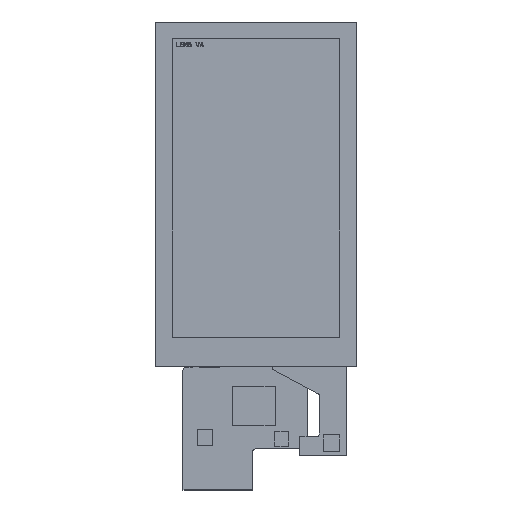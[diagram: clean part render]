
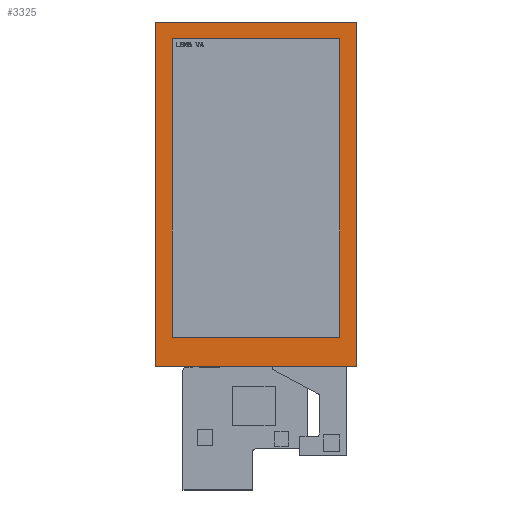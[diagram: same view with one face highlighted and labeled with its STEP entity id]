
A CAD part, top view. The second image highlights one B-rep face of the part: STEP entity #3325.
In plain terms, the highlighted planar face has unit normal (0, 0, 1).
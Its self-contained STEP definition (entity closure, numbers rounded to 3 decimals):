
#30=CARTESIAN_POINT('',(3.201,48.398,1.));
#31=DIRECTION('',(0.,0.,1.));
#32=DIRECTION('',(-1.,0.,0.));
#33=AXIS2_PLACEMENT_3D('',#30,#31,#32);
#35=DIRECTION('',(0.,-1.,0.));
#36=VECTOR('',#35,125.127);
#37=CARTESIAN_POINT('',(2.701,173.524,1.));
#38=LINE('',#37,#36);
#39=CARTESIAN_POINT('',(3.201,173.524,1.));
#40=DIRECTION('',(0.,0.,1.));
#41=DIRECTION('',(0.,1.,0.));
#42=AXIS2_PLACEMENT_3D('',#39,#40,#41);
#44=DIRECTION('',(-1.,0.,0.));
#45=VECTOR('',#44,72.332);
#46=CARTESIAN_POINT('',(75.533,174.024,1.));
#47=LINE('',#46,#45);
#48=CARTESIAN_POINT('',(75.533,173.524,1.));
#49=DIRECTION('',(0.,0.,1.));
#50=DIRECTION('',(1.,0.,0.));
#51=AXIS2_PLACEMENT_3D('',#48,#49,#50);
#53=DIRECTION('',(0.,1.,0.));
#54=VECTOR('',#53,125.127);
#55=CARTESIAN_POINT('',(76.033,48.398,1.));
#56=LINE('',#55,#54);
#57=CARTESIAN_POINT('',(75.533,48.398,1.));
#58=DIRECTION('',(0.,0.,1.));
#59=DIRECTION('',(0.,-1.,0.));
#60=AXIS2_PLACEMENT_3D('',#57,#58,#59);
#62=DIRECTION('',(1.,0.,0.));
#63=VECTOR('',#62,72.332);
#64=CARTESIAN_POINT('',(3.201,47.898,1.));
#65=LINE('',#64,#63);
#66=DIRECTION('',(1.,0.,0.));
#67=VECTOR('',#66,61.232);
#68=CARTESIAN_POINT('',(8.751,58.721,1.));
#69=LINE('',#68,#67);
#70=DIRECTION('',(0.,1.,0.));
#71=VECTOR('',#70,109.254);
#72=CARTESIAN_POINT('',(69.983,58.721,1.));
#73=LINE('',#72,#71);
#74=DIRECTION('',(-1.,0.,0.));
#75=VECTOR('',#74,61.232);
#76=CARTESIAN_POINT('',(69.983,167.974,1.));
#77=LINE('',#76,#75);
#78=DIRECTION('',(0.,-1.,0.));
#79=VECTOR('',#78,109.254);
#80=CARTESIAN_POINT('',(8.751,167.974,1.));
#81=LINE('',#80,#79);
#2672=CARTESIAN_POINT('',(2.701,48.398,1.));
#2673=CARTESIAN_POINT('',(3.201,47.898,1.));
#2674=VERTEX_POINT('',#2672);
#2675=VERTEX_POINT('',#2673);
#2676=CARTESIAN_POINT('',(75.533,47.898,1.));
#2677=VERTEX_POINT('',#2676);
#2678=CARTESIAN_POINT('',(76.033,48.398,1.));
#2679=VERTEX_POINT('',#2678);
#2680=CARTESIAN_POINT('',(76.033,173.524,1.));
#2681=VERTEX_POINT('',#2680);
#2682=CARTESIAN_POINT('',(75.533,174.024,1.));
#2683=VERTEX_POINT('',#2682);
#2684=CARTESIAN_POINT('',(3.201,174.024,1.));
#2685=VERTEX_POINT('',#2684);
#2686=CARTESIAN_POINT('',(2.701,173.524,1.));
#2687=VERTEX_POINT('',#2686);
#2904=CARTESIAN_POINT('',(8.751,58.721,1.));
#2905=CARTESIAN_POINT('',(69.983,58.721,1.));
#2906=VERTEX_POINT('',#2904);
#2907=VERTEX_POINT('',#2905);
#2908=CARTESIAN_POINT('',(69.983,167.974,1.));
#2909=VERTEX_POINT('',#2908);
#2910=CARTESIAN_POINT('',(8.751,167.974,1.));
#2911=VERTEX_POINT('',#2910);
#3292=CARTESIAN_POINT('',(0.,0.,1.));
#3293=DIRECTION('',(0.,0.,1.));
#3294=DIRECTION('',(1.,0.,0.));
#3295=AXIS2_PLACEMENT_3D('',#3292,#3293,#3294);
#3296=PLANE('',#3295);
#3298=ORIENTED_EDGE('',*,*,#3297,.F.);
#3300=ORIENTED_EDGE('',*,*,#3299,.F.);
#3302=ORIENTED_EDGE('',*,*,#3301,.F.);
#3304=ORIENTED_EDGE('',*,*,#3303,.F.);
#3306=ORIENTED_EDGE('',*,*,#3305,.F.);
#3308=ORIENTED_EDGE('',*,*,#3307,.F.);
#3310=ORIENTED_EDGE('',*,*,#3309,.F.);
#3312=ORIENTED_EDGE('',*,*,#3311,.F.);
#3313=EDGE_LOOP('',(#3298,#3300,#3302,#3304,#3306,#3308,#3310,#3312));
#3314=FACE_OUTER_BOUND('',#3313,.F.);
#3316=ORIENTED_EDGE('',*,*,#3315,.T.);
#3318=ORIENTED_EDGE('',*,*,#3317,.T.);
#3320=ORIENTED_EDGE('',*,*,#3319,.T.);
#3322=ORIENTED_EDGE('',*,*,#3321,.T.);
#3323=EDGE_LOOP('',(#3316,#3318,#3320,#3322));
#3324=FACE_BOUND('',#3323,.F.);
#34=CIRCLE('',#33,0.5);
#43=CIRCLE('',#42,0.5);
#52=CIRCLE('',#51,0.5);
#61=CIRCLE('',#60,0.5);
#3297=EDGE_CURVE('',#2674,#2675,#34,.T.);
#3299=EDGE_CURVE('',#2687,#2674,#38,.T.);
#3301=EDGE_CURVE('',#2685,#2687,#43,.T.);
#3303=EDGE_CURVE('',#2683,#2685,#47,.T.);
#3305=EDGE_CURVE('',#2681,#2683,#52,.T.);
#3307=EDGE_CURVE('',#2679,#2681,#56,.T.);
#3309=EDGE_CURVE('',#2677,#2679,#61,.T.);
#3311=EDGE_CURVE('',#2675,#2677,#65,.T.);
#3315=EDGE_CURVE('',#2906,#2907,#69,.T.);
#3317=EDGE_CURVE('',#2907,#2909,#73,.T.);
#3319=EDGE_CURVE('',#2909,#2911,#77,.T.);
#3321=EDGE_CURVE('',#2911,#2906,#81,.T.);
#3325=ADVANCED_FACE('',(#3314,#3324),#3296,.T.);
